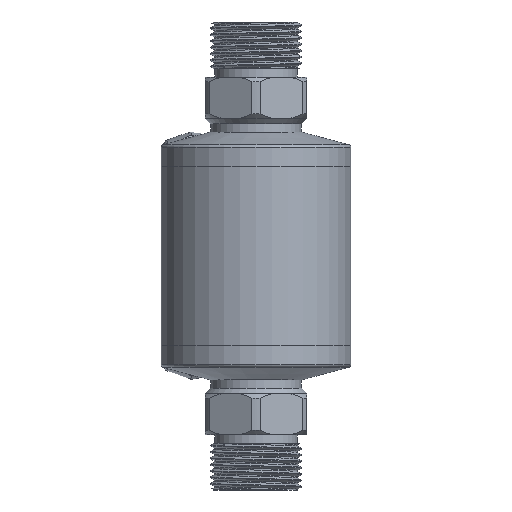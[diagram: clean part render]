
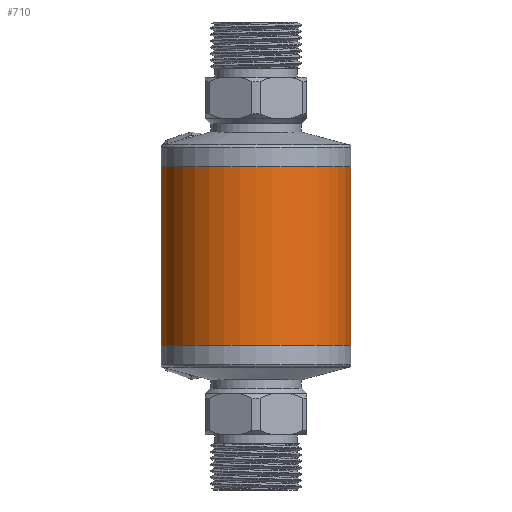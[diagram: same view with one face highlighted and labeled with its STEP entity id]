
A CAD part, front view. The second image highlights one B-rep face of the part: STEP entity #710.
In plain terms, the highlighted cylindrical face has radius 34.5 mm (diameter 69 mm), a full revolution.
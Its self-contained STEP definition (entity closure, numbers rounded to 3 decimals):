
#31=ELLIPSE('',#3273,48.79,34.5);
#32=ELLIPSE('',#3274,48.79,34.5);
#253=CYLINDRICAL_SURFACE('',#3277,34.5);
#517=FACE_BOUND('',#1161,.T.);
#518=FACE_BOUND('',#1162,.T.);
#519=FACE_BOUND('',#1163,.T.);
#710=ADVANCED_FACE('',(#517,#518,#519),#253,.T.);
#1161=EDGE_LOOP('',(#2083,#2084,#2085,#2086));
#1162=EDGE_LOOP('',(#2087));
#1163=EDGE_LOOP('',(#2088));
#1248=LINE('',#11401,#1328);
#1249=LINE('',#11405,#1329);
#1328=VECTOR('',#4051,1.);
#1329=VECTOR('',#4054,1.);
#2083=ORIENTED_EDGE('',*,*,#2752,.T.);
#2084=ORIENTED_EDGE('',*,*,#2753,.F.);
#2085=ORIENTED_EDGE('',*,*,#2754,.T.);
#2086=ORIENTED_EDGE('',*,*,#2755,.F.);
#2087=ORIENTED_EDGE('',*,*,#2756,.F.);
#2088=ORIENTED_EDGE('',*,*,#2757,.T.);
#2369=VERTEX_POINT('',#11399);
#2370=VERTEX_POINT('',#11400);
#2371=VERTEX_POINT('',#11402);
#2372=VERTEX_POINT('',#11404);
#2373=VERTEX_POINT('',#11407);
#2374=VERTEX_POINT('',#11409);
#2752=EDGE_CURVE('',#2369,#2370,#31,.T.);
#2753=EDGE_CURVE('',#2371,#2370,#1248,.T.);
#2754=EDGE_CURVE('',#2371,#2372,#32,.T.);
#2755=EDGE_CURVE('',#2369,#2372,#1249,.T.);
#2756=EDGE_CURVE('',#2373,#2373,#2926,.T.);
#2757=EDGE_CURVE('',#2374,#2374,#2927,.T.);
#2926=CIRCLE('',#3275,34.5);
#2927=CIRCLE('',#3276,34.5);
#3273=AXIS2_PLACEMENT_3D('',#11398,#4049,#4050);
#3274=AXIS2_PLACEMENT_3D('',#11403,#4052,#4053);
#3275=AXIS2_PLACEMENT_3D('',#11406,#4055,#4056);
#3276=AXIS2_PLACEMENT_3D('',#11408,#4057,#4058);
#3277=AXIS2_PLACEMENT_3D('',#11410,#4059,#4060);
#4049=DIRECTION('',(0.,-0.707,0.707));
#4050=DIRECTION('',(0.,0.707,0.707));
#4051=DIRECTION('',(0.,0.,1.));
#4052=DIRECTION('',(0.,-0.707,-0.707));
#4053=DIRECTION('',(0.,-0.707,0.707));
#4054=DIRECTION('',(0.,0.,-1.));
#4055=DIRECTION('',(0.,0.,1.));
#4056=DIRECTION('',(1.,0.,0.));
#4057=DIRECTION('',(0.,0.,1.));
#4058=DIRECTION('',(1.,0.,0.));
#4059=DIRECTION('',(0.,0.,1.));
#4060=DIRECTION('',(1.,0.,0.));
#11398=CARTESIAN_POINT('',(153.125,0.938,-18.));
#11399=CARTESIAN_POINT('',(166.019,32.938,14.));
#11400=CARTESIAN_POINT('',(140.231,32.938,14.));
#11401=CARTESIAN_POINT('',(140.231,32.938,-4.375));
#11402=CARTESIAN_POINT('',(140.231,32.938,-14.));
#11403=CARTESIAN_POINT('',(153.125,0.938,18.));
#11404=CARTESIAN_POINT('',(166.019,32.938,-14.));
#11405=CARTESIAN_POINT('',(166.019,32.938,-4.375));
#11406=CARTESIAN_POINT('',(153.125,0.938,32.5));
#11407=CARTESIAN_POINT('',(187.625,0.938,32.5));
#11408=CARTESIAN_POINT('',(153.125,0.938,-32.5));
#11409=CARTESIAN_POINT('',(187.625,0.938,-32.5));
#11410=CARTESIAN_POINT('',(153.125,0.938,-4.375));
